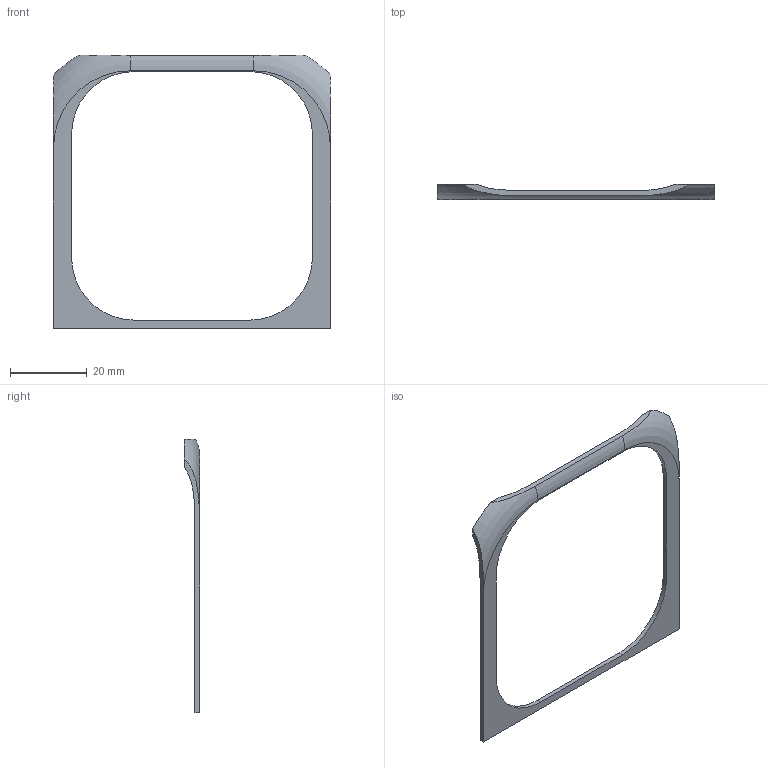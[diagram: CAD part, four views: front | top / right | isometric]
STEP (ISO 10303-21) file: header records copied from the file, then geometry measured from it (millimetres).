
FILE_DESCRIPTION(('Open CASCADE Model'),'2;1');
FILE_NAME('front_grip_skin_finegrain_cream','2026-09-06T11:35:14',( 'Author'),('Open CASCADE'),'Open CASCADE STEP processor 7.8', 'build123d','Unknown');
FILE_SCHEMA(('AUTOMOTIVE_DESIGN { 1 0 10303 214 1 1 1 1 }'));
Length unit declared in the file: millimetre
Products named in the file (1): front_grip_skin_finegrain_cream
Bounding box: 72 x 3.9 x 71 mm (x, y, z)
Volume: 1545.9 mm3; surface area: 3201.5 mm2
Topology: 1 solids, 1 shells, 22 faces, 62 edges, 42 vertices
Faces by surface type: plane 12, cylinder 6, torus 4
Entity records: 2085 total; most frequent: CARTESIAN_POINT 917, DIRECTION 190, ORIENTED_EDGE 124, PCURVE 124, DEFINITIONAL_REPRESENTATION 124, LINE 88, VECTOR 88, EDGE_CURVE 62
